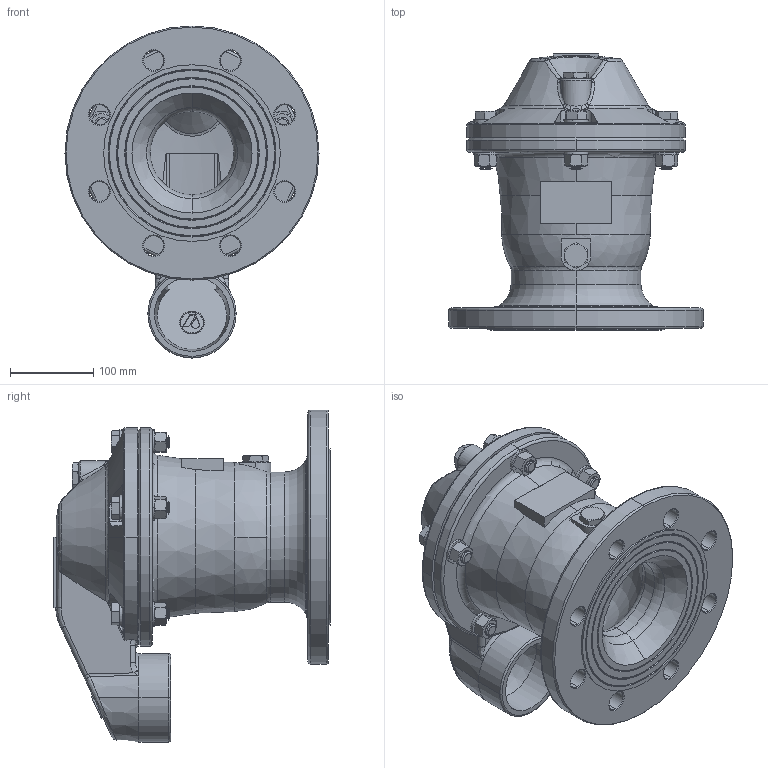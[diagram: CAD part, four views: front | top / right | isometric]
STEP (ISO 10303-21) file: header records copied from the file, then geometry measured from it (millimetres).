
FILE_DESCRIPTION (( 'STEP AP203' ), '1' );
FILE_NAME ('Assy_K-010_6-M1.STEP', '2022-02-06T12:37:19', ( '' ), ( '' ), 'SwSTEP 2.0', 'SolidWorks 2016', '' );
FILE_SCHEMA (( 'CONFIG_CONTROL_DESIGN' ));
Length unit declared in the file: millimetre
Products named in the file (2): Assy_K-010_6-M1
Bounding box: 305 x 331.4 x 398.5 mm (x, y, z)
Surface area: 535729.9 mm2 (no closed solid volume)
Topology: 0 solids, 45 shells, 499 faces, 1346 edges, 872 vertices
Faces by surface type: cone 166, plane 148, cylinder 94, bspline 52, torus 34, sphere 5
Entity records: 21427 total; most frequent: CARTESIAN_POINT 9514, ORIENTED_EDGE 2389, DIRECTION 2360, EDGE_CURVE 1346, AXIS2_PLACEMENT_3D 1003, VERTEX_POINT 872, CIRCLE 554, EDGE_LOOP 547
